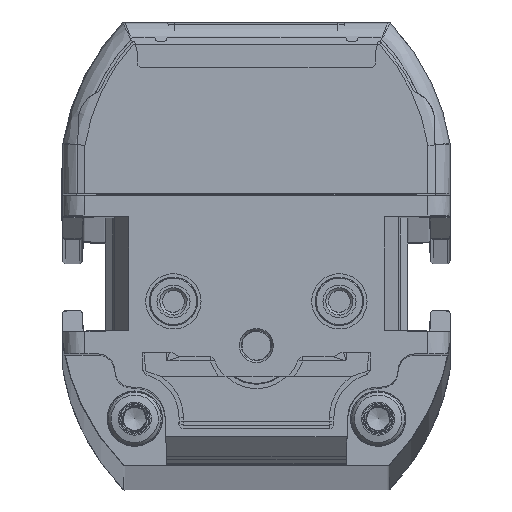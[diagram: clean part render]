
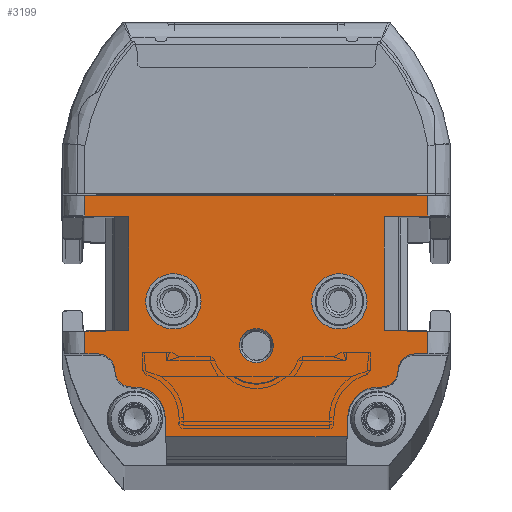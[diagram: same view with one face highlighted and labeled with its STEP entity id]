
A CAD part, top view. The second image highlights one B-rep face of the part: STEP entity #3199.
In plain terms, the highlighted planar face has unit normal (0, 0, 1).
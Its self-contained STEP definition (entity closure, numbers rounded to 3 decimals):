
#1297=FACE_BOUND('',#5329,.T.);
#1298=FACE_BOUND('',#5330,.T.);
#1299=FACE_BOUND('',#5331,.T.);
#1300=FACE_BOUND('',#5332,.T.);
#1824=CIRCLE('',#16890,1.5);
#1825=CIRCLE('',#16892,1.5);
#1826=CIRCLE('',#16895,2.75);
#1841=CIRCLE('',#16962,1.5);
#1842=CIRCLE('',#16964,1.5);
#1844=CIRCLE('',#16974,2.75);
#1845=CIRCLE('',#16982,2.5);
#1846=CIRCLE('',#16983,2.5);
#1847=CIRCLE('',#16984,1.55);
#3199=ADVANCED_FACE('',(#1297,#1298,#1299,#1300),#3772,.T.);
#3772=PLANE('',#16985);
#5329=EDGE_LOOP('',(#8247,#8248,#8249,#8250,#8251,#8252,#8253,#8254,#8255,
#8256,#8257,#8258,#8259,#8260,#8261,#8262,#8263,#8264,#8265,#8266,#8267,
#8268,#8269,#8270,#8271,#8272));
#5330=EDGE_LOOP('',(#8273));
#5331=EDGE_LOOP('',(#8274));
#5332=EDGE_LOOP('',(#8275));
#8247=ORIENTED_EDGE('',*,*,#12813,.F.);
#8248=ORIENTED_EDGE('',*,*,#12812,.T.);
#8249=ORIENTED_EDGE('',*,*,#12809,.T.);
#8250=ORIENTED_EDGE('',*,*,#12804,.T.);
#8251=ORIENTED_EDGE('',*,*,#12998,.T.);
#8252=ORIENTED_EDGE('',*,*,#12999,.T.);
#8253=ORIENTED_EDGE('',*,*,#13000,.T.);
#8254=ORIENTED_EDGE('',*,*,#13001,.T.);
#8255=ORIENTED_EDGE('',*,*,#13002,.T.);
#8256=ORIENTED_EDGE('',*,*,#12929,.F.);
#8257=ORIENTED_EDGE('',*,*,#12940,.F.);
#8258=ORIENTED_EDGE('',*,*,#12925,.F.);
#8259=ORIENTED_EDGE('',*,*,#13003,.T.);
#8260=ORIENTED_EDGE('',*,*,#13004,.F.);
#8261=ORIENTED_EDGE('',*,*,#13005,.T.);
#8262=ORIENTED_EDGE('',*,*,#13006,.F.);
#8263=ORIENTED_EDGE('',*,*,#13007,.T.);
#8264=ORIENTED_EDGE('',*,*,#12966,.F.);
#8265=ORIENTED_EDGE('',*,*,#12964,.T.);
#8266=ORIENTED_EDGE('',*,*,#12963,.T.);
#8267=ORIENTED_EDGE('',*,*,#12959,.F.);
#8268=ORIENTED_EDGE('',*,*,#12983,.F.);
#8269=ORIENTED_EDGE('',*,*,#12978,.F.);
#8270=ORIENTED_EDGE('',*,*,#13008,.T.);
#8271=ORIENTED_EDGE('',*,*,#12823,.F.);
#8272=ORIENTED_EDGE('',*,*,#12816,.F.);
#8273=ORIENTED_EDGE('',*,*,#13009,.F.);
#8274=ORIENTED_EDGE('',*,*,#13010,.F.);
#8275=ORIENTED_EDGE('',*,*,#13011,.T.);
#10962=VERTEX_POINT('',#30975);
#10963=VERTEX_POINT('',#30976);
#10966=VERTEX_POINT('',#30993);
#10967=VERTEX_POINT('',#30997);
#10968=VERTEX_POINT('',#31001);
#10969=VERTEX_POINT('',#31005);
#10976=VERTEX_POINT('',#31021);
#11060=VERTEX_POINT('',#31290);
#11064=VERTEX_POINT('',#31298);
#11067=VERTEX_POINT('',#31306);
#11068=VERTEX_POINT('',#31308);
#11086=VERTEX_POINT('',#31543);
#11087=VERTEX_POINT('',#31544);
#11088=VERTEX_POINT('',#31549);
#11089=VERTEX_POINT('',#31553);
#11090=VERTEX_POINT('',#31557);
#11099=VERTEX_POINT('',#31772);
#11100=VERTEX_POINT('',#31774);
#11111=VERTEX_POINT('',#31813);
#11112=VERTEX_POINT('',#31815);
#11113=VERTEX_POINT('',#31817);
#11114=VERTEX_POINT('',#31819);
#11115=VERTEX_POINT('',#31822);
#11116=VERTEX_POINT('',#31824);
#11117=VERTEX_POINT('',#31826);
#11118=VERTEX_POINT('',#31828);
#11119=VERTEX_POINT('',#31832);
#11120=VERTEX_POINT('',#31834);
#11121=VERTEX_POINT('',#31836);
#12804=EDGE_CURVE('',#10962,#10963,#14477,.T.);
#12809=EDGE_CURVE('',#10966,#10962,#1824,.T.);
#12812=EDGE_CURVE('',#10967,#10966,#1825,.T.);
#12813=EDGE_CURVE('',#10967,#10968,#14481,.T.);
#12816=EDGE_CURVE('',#10968,#10969,#1826,.T.);
#12823=EDGE_CURVE('',#10969,#10976,#14487,.T.);
#12925=EDGE_CURVE('',#11064,#11060,#14555,.T.);
#12929=EDGE_CURVE('',#11067,#11068,#14559,.T.);
#12940=EDGE_CURVE('',#11060,#11067,#14566,.T.);
#12959=EDGE_CURVE('',#11086,#11087,#14575,.T.);
#12963=EDGE_CURVE('',#11088,#11087,#1841,.T.);
#12964=EDGE_CURVE('',#11089,#11088,#1842,.T.);
#12966=EDGE_CURVE('',#11089,#11090,#14580,.T.);
#12978=EDGE_CURVE('',#11099,#11100,#14584,.T.);
#12983=EDGE_CURVE('',#11100,#11086,#1844,.T.);
#12998=EDGE_CURVE('',#10963,#11111,#14601,.T.);
#12999=EDGE_CURVE('',#11111,#11112,#14602,.T.);
#13000=EDGE_CURVE('',#11112,#11113,#14603,.T.);
#13001=EDGE_CURVE('',#11113,#11114,#14604,.T.);
#13002=EDGE_CURVE('',#11114,#11068,#14605,.T.);
#13003=EDGE_CURVE('',#11064,#11115,#14606,.T.);
#13004=EDGE_CURVE('',#11116,#11115,#14607,.T.);
#13005=EDGE_CURVE('',#11116,#11117,#14608,.T.);
#13006=EDGE_CURVE('',#11118,#11117,#14609,.T.);
#13007=EDGE_CURVE('',#11118,#11090,#14610,.T.);
#13008=EDGE_CURVE('',#11099,#10976,#14611,.T.);
#13009=EDGE_CURVE('',#11119,#11119,#1845,.T.);
#13010=EDGE_CURVE('',#11120,#11120,#1846,.T.);
#13011=EDGE_CURVE('',#11121,#11121,#1847,.T.);
#14477=LINE('',#30974,#15652);
#14481=LINE('',#31000,#15656);
#14487=LINE('',#31020,#15662);
#14555=LINE('',#31299,#15730);
#14559=LINE('',#31307,#15734);
#14566=LINE('',#31328,#15741);
#14575=LINE('',#31542,#15750);
#14580=LINE('',#31556,#15755);
#14584=LINE('',#31773,#15759);
#14601=LINE('',#31812,#15776);
#14602=LINE('',#31814,#15777);
#14603=LINE('',#31816,#15778);
#14604=LINE('',#31818,#15779);
#14605=LINE('',#31820,#15780);
#14606=LINE('',#31821,#15781);
#14607=LINE('',#31823,#15782);
#14608=LINE('',#31825,#15783);
#14609=LINE('',#31827,#15784);
#14610=LINE('',#31829,#15785);
#14611=LINE('',#31830,#15786);
#15652=VECTOR('',#19448,1.);
#15656=VECTOR('',#19464,1.);
#15662=VECTOR('',#19482,1.);
#15730=VECTOR('',#19630,1.);
#15734=VECTOR('',#19636,1.);
#15741=VECTOR('',#19659,1.);
#15750=VECTOR('',#19692,1.);
#15755=VECTOR('',#19707,1.);
#15759=VECTOR('',#19721,1.);
#15776=VECTOR('',#19760,1.);
#15777=VECTOR('',#19761,1.);
#15778=VECTOR('',#19762,1.);
#15779=VECTOR('',#19763,1.);
#15780=VECTOR('',#19764,1.);
#15781=VECTOR('',#19765,1.);
#15782=VECTOR('',#19766,1.);
#15783=VECTOR('',#19767,1.);
#15784=VECTOR('',#19768,1.);
#15785=VECTOR('',#19769,1.);
#15786=VECTOR('',#19770,1.);
#16890=AXIS2_PLACEMENT_3D('',#30992,#19454,#19455);
#16892=AXIS2_PLACEMENT_3D('',#30998,#19460,#19461);
#16895=AXIS2_PLACEMENT_3D('',#31006,#19469,#19470);
#16962=AXIS2_PLACEMENT_3D('',#31550,#19698,#19699);
#16964=AXIS2_PLACEMENT_3D('',#31552,#19702,#19703);
#16974=AXIS2_PLACEMENT_3D('',#31782,#19730,#19731);
#16982=AXIS2_PLACEMENT_3D('',#31831,#19771,#19772);
#16983=AXIS2_PLACEMENT_3D('',#31833,#19773,#19774);
#16984=AXIS2_PLACEMENT_3D('',#31835,#19775,#19776);
#16985=AXIS2_PLACEMENT_3D('',#31837,#19777,#19778);
#19448=DIRECTION('',(1.,0.,0.));
#19454=DIRECTION('',(0.,0.,-1.));
#19455=DIRECTION('',(1.,0.,0.));
#19460=DIRECTION('',(0.,0.,1.));
#19461=DIRECTION('',(1.,0.,0.));
#19464=DIRECTION('',(-1.,0.,0.));
#19469=DIRECTION('',(0.,0.,1.));
#19470=DIRECTION('',(1.,0.,0.));
#19482=DIRECTION('',(-0.035,-0.999,0.));
#19630=DIRECTION('',(1.,0.017,0.));
#19636=DIRECTION('',(1.,-0.017,0.));
#19659=DIRECTION('',(1.,0.,0.));
#19692=DIRECTION('',(-1.,0.,0.));
#19698=DIRECTION('',(0.,0.,1.));
#19699=DIRECTION('',(1.,0.,0.));
#19702=DIRECTION('',(0.,0.,-1.));
#19703=DIRECTION('',(1.,0.,0.));
#19707=DIRECTION('',(-1.,0.,0.));
#19721=DIRECTION('',(-0.035,0.999,0.));
#19730=DIRECTION('',(0.,0.,1.));
#19731=DIRECTION('',(1.,0.,0.));
#19760=DIRECTION('',(0.,1.,0.));
#19761=DIRECTION('',(-1.,0.017,0.));
#19762=DIRECTION('',(0.,1.,0.));
#19763=DIRECTION('',(1.,0.017,0.));
#19764=DIRECTION('',(0.,1.,0.));
#19765=DIRECTION('',(0.,-1.,0.));
#19766=DIRECTION('',(-1.,0.017,0.));
#19767=DIRECTION('',(0.,-1.,0.));
#19768=DIRECTION('',(1.,0.017,0.));
#19769=DIRECTION('',(0.,-1.,0.));
#19770=DIRECTION('',(1.,0.,0.));
#19771=DIRECTION('',(0.,0.,1.));
#19772=DIRECTION('',(1.,0.,0.));
#19773=DIRECTION('',(0.,0.,1.));
#19774=DIRECTION('',(1.,0.,0.));
#19775=DIRECTION('',(0.,0.,-1.));
#19776=DIRECTION('',(1.,0.,0.));
#19777=DIRECTION('',(0.,0.,1.));
#19778=DIRECTION('',(1.,0.,0.));
#30974=CARTESIAN_POINT('',(-17.5,10.,1314.));
#30975=CARTESIAN_POINT('',(14.3,10.,1314.));
#30976=CARTESIAN_POINT('',(15.5,10.,1314.));
#30992=CARTESIAN_POINT('',(14.3,8.5,1314.));
#30993=CARTESIAN_POINT('',(12.8,8.5,1314.));
#30997=CARTESIAN_POINT('',(11.3,7.,1314.));
#30998=CARTESIAN_POINT('',(11.3,8.5,1314.));
#31000=CARTESIAN_POINT('',(23.25,7.,1314.));
#31001=CARTESIAN_POINT('',(11.002,7.,1314.));
#31005=CARTESIAN_POINT('',(8.253,4.346,1314.));
#31006=CARTESIAN_POINT('',(11.002,4.25,1314.));
#31020=CARTESIAN_POINT('',(8.25,4.25,1314.));
#31021=CARTESIAN_POINT('',(8.189,2.5,1314.));
#31290=CARTESIAN_POINT('',(-13.025,24.36,1314.));
#31298=CARTESIAN_POINT('',(-15.5,24.317,1314.));
#31299=CARTESIAN_POINT('',(-17.924,24.275,1314.));
#31306=CARTESIAN_POINT('',(13.025,24.36,1314.));
#31307=CARTESIAN_POINT('',(-17.066,24.886,1314.));
#31308=CARTESIAN_POINT('',(15.5,24.317,1314.));
#31328=CARTESIAN_POINT('',(-17.5,24.36,1314.));
#31542=CARTESIAN_POINT('',(-11.,7.,1314.));
#31543=CARTESIAN_POINT('',(-11.002,7.,1314.));
#31544=CARTESIAN_POINT('',(-11.3,7.,1314.));
#31549=CARTESIAN_POINT('',(-12.8,8.5,1314.));
#31550=CARTESIAN_POINT('',(-11.3,8.5,1314.));
#31552=CARTESIAN_POINT('',(-14.3,8.5,1314.));
#31553=CARTESIAN_POINT('',(-14.3,10.,1314.));
#31556=CARTESIAN_POINT('',(-17.5,10.,1314.));
#31557=CARTESIAN_POINT('',(-15.5,10.,1314.));
#31772=CARTESIAN_POINT('',(-8.189,2.5,1314.));
#31773=CARTESIAN_POINT('',(-8.25,4.25,1314.));
#31774=CARTESIAN_POINT('',(-8.253,4.346,1314.));
#31782=CARTESIAN_POINT('',(-11.002,4.25,1314.));
#31812=CARTESIAN_POINT('',(15.5,0.,1314.));
#31813=CARTESIAN_POINT('',(15.5,12.038,1314.));
#31814=CARTESIAN_POINT('',(-17.28,12.61,1314.));
#31815=CARTESIAN_POINT('',(11.55,12.107,1314.));
#31816=CARTESIAN_POINT('',(11.55,0.,1314.));
#31817=CARTESIAN_POINT('',(11.55,22.393,1314.));
#31818=CARTESIAN_POINT('',(-17.882,21.88,1314.));
#31819=CARTESIAN_POINT('',(15.5,22.462,1314.));
#31820=CARTESIAN_POINT('',(15.5,0.,1314.));
#31821=CARTESIAN_POINT('',(-15.5,0.,1314.));
#31822=CARTESIAN_POINT('',(-15.5,22.462,1314.));
#31823=CARTESIAN_POINT('',(-17.107,22.49,1314.));
#31824=CARTESIAN_POINT('',(-11.55,22.393,1314.));
#31825=CARTESIAN_POINT('',(-11.55,0.,1314.));
#31826=CARTESIAN_POINT('',(-11.55,12.107,1314.));
#31827=CARTESIAN_POINT('',(-17.709,11.999,1314.));
#31828=CARTESIAN_POINT('',(-15.5,12.038,1314.));
#31829=CARTESIAN_POINT('',(-15.5,0.,1314.));
#31830=CARTESIAN_POINT('',(-17.5,2.5,1314.));
#31831=CARTESIAN_POINT('',(-7.5,14.75,1314.));
#31832=CARTESIAN_POINT('',(-5.,14.75,1314.));
#31833=CARTESIAN_POINT('',(7.5,14.75,1314.));
#31834=CARTESIAN_POINT('',(10.,14.75,1314.));
#31835=CARTESIAN_POINT('',(0.,10.75,1314.));
#31836=CARTESIAN_POINT('',(1.55,10.75,1314.));
#31837=CARTESIAN_POINT('',(-17.5,0.,1314.));
